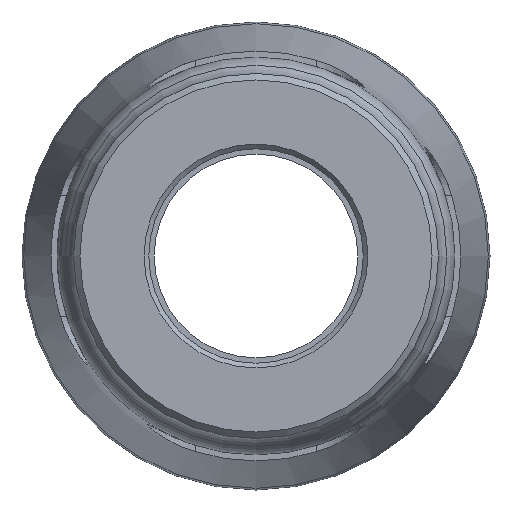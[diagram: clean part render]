
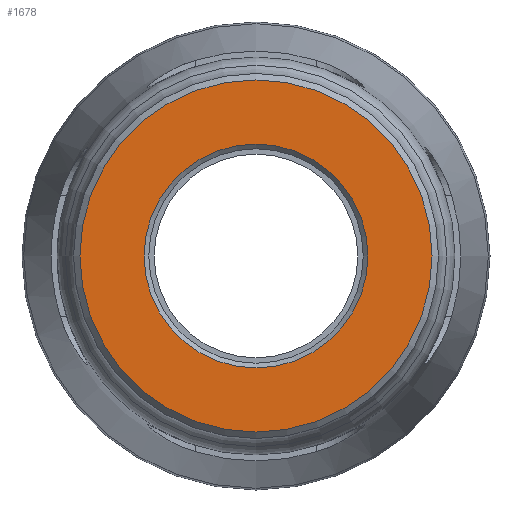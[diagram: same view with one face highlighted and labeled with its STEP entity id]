
A CAD part, left-side view. The second image highlights one B-rep face of the part: STEP entity #1678.
In plain terms, the highlighted planar face has unit normal (-1, 0, 0).
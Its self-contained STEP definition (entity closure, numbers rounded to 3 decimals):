
#23=FACE_BOUND('',#400,.T.);
#55=PLANE('',#1829);
#291=FACE_OUTER_BOUND('',#399,.T.);
#399=EDGE_LOOP('',(#1155));
#400=EDGE_LOOP('',(#1156));
#543=CIRCLE('',#1828,20.326);
#544=CIRCLE('',#1830,31.981);
#714=VERTEX_POINT('',#2896);
#715=VERTEX_POINT('',#2899);
#885=EDGE_CURVE('',#714,#714,#543,.T.);
#886=EDGE_CURVE('',#715,#715,#544,.T.);
#1155=ORIENTED_EDGE('',*,*,#886,.F.);
#1156=ORIENTED_EDGE('',*,*,#885,.F.);
#1678=ADVANCED_FACE('',(#291,#23),#55,.T.);
#1828=AXIS2_PLACEMENT_3D('',#2897,#2109,#2110);
#1829=AXIS2_PLACEMENT_3D('',#2898,#2111,#2112);
#1830=AXIS2_PLACEMENT_3D('',#2900,#2113,#2114);
#2109=DIRECTION('center_axis',(-1.,0.,0.));
#2110=DIRECTION('ref_axis',(0.,-1.,0.));
#2111=DIRECTION('center_axis',(-1.,0.,0.));
#2112=DIRECTION('ref_axis',(0.,0.,1.));
#2113=DIRECTION('center_axis',(1.,0.,0.));
#2114=DIRECTION('ref_axis',(0.,-1.,0.));
#2896=CARTESIAN_POINT('',(0.,20.326,0.));
#2897=CARTESIAN_POINT('Origin',(0.,0.,0.));
#2898=CARTESIAN_POINT('Origin',(0.,33.15,0.));
#2899=CARTESIAN_POINT('',(0.,31.981,0.));
#2900=CARTESIAN_POINT('Origin',(0.,0.,0.));
